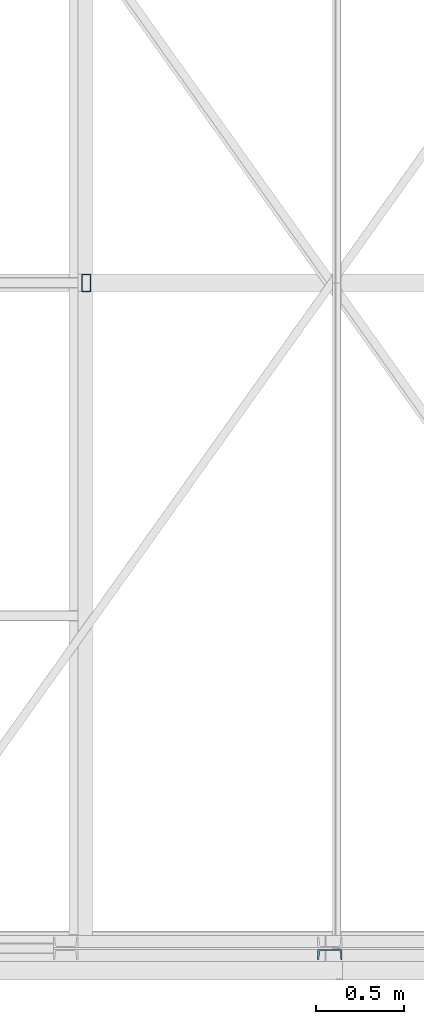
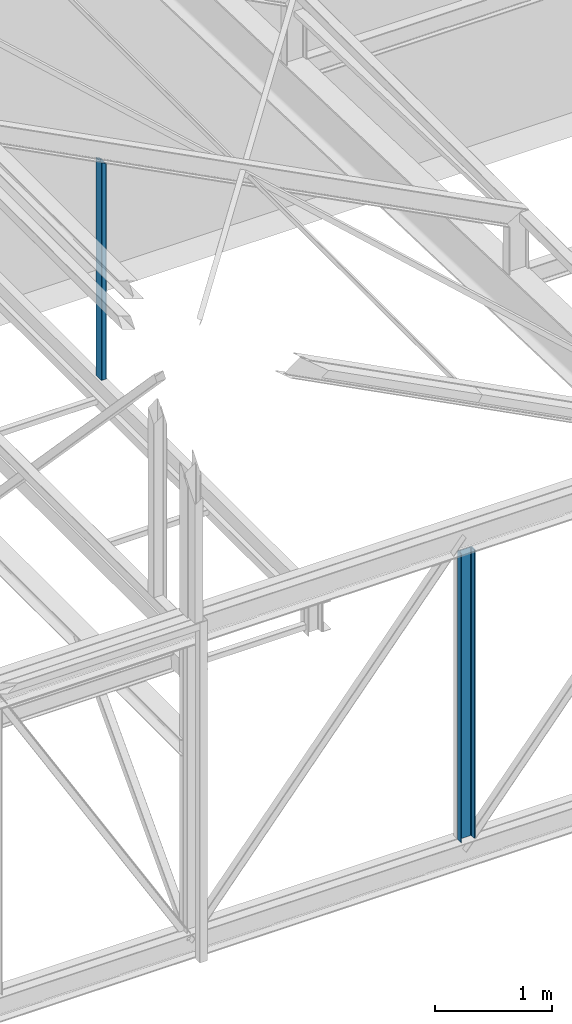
# One storey, part 7 of 123: 2 columns, 2 elements without a shape of their own.
"""IFC2X3 building model written with IfcOpenShell, lengths in millimetres."""

from ifc_helpers import new_model, si_unit, frame, origin_with_axes, origin_2d_with_axis, place, context, subcontext, project, spatial, hollow_rectangle, u_section, extrude, clip, halfspace, material, type_object, element, aggregate, save


model = new_model("IFC2X3")

# Units and contexts
model_context = context("Model", 3, precision=1e-05, world=origin_with_axes())
body_context = subcontext(model_context, "Body", "Model", "MODEL_VIEW")
ifc_project = project(units=[si_unit("LENGTHUNIT", "METRE", prefix="MILLI"), si_unit("AREAUNIT", "SQUARE_METRE"), si_unit("VOLUMEUNIT", "CUBIC_METRE"), si_unit("MASSUNIT", "GRAM", prefix="KILO"), si_unit("TIMEUNIT", "SECOND"), si_unit("PLANEANGLEUNIT", "RADIAN"), si_unit("SOLIDANGLEUNIT", "STERADIAN"), si_unit("THERMODYNAMICTEMPERATUREUNIT", "DEGREE_CELSIUS"), si_unit("LUMINOUSINTENSITYUNIT", "LUMEN")], contexts=[model_context])

# Site, building, storey
site_placement = place(None, origin_with_axes())
site = spatial("IfcSite", under=ifc_project, at=site_placement, Name="Undefined", CompositionType="ELEMENT")
building_placement = place(site_placement, origin_with_axes())
building = spatial("IfcBuilding", under=site, at=building_placement, Name="Undefined", CompositionType="ELEMENT")
storey_placement = place(building_placement, origin_with_axes())
storey = spatial("IfcBuildingStorey", under=building, at=storey_placement, Name="Undefined", CompositionType="ELEMENT", Elevation=0.0)

# Assembly, column
assembly_1_placement = place(storey_placement, origin_with_axes())
assembly_1 = element("IfcElementAssembly", 1, at=assembly_1_placement, inside=storey, Name="Steel Assembly", AssemblyPlace="NOTDEFINED", PredefinedType="RIGID_FRAME")
ifc_material_1 = material(Name="STEEL/S275-E28")
column_type_1 = type_object("IfcColumnType", Name="UPN140", PredefinedType="NOTDEFINED")
column_1_placement = place(assembly_1_placement, frame((26175.0, -35.0, 5260.0), z_axis=(0.0, 0.0, 1.0), x_axis=(-1.0, 0.0, 0.0)))
column_1 = element("IfcColumn", 2, at=column_1_placement, type_object=column_type_1, material=ifc_material_1, Name="MONTANT", ObjectType="UPN140", context=body_context, shape_type="SweptSolid", body=[
    extrude(u_section(Depth=140.0, FlangeWidth=60.0, WebThickness=7.0, FlangeThickness=10.0, FilletRadius=10.0, EdgeRadius=5.0, FlangeSlope=0.0798299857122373, at=origin_2d_with_axis()), frame((0.0, 0.0, 3009.99444626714), z_axis=(0.0, 0.0, -1.0), x_axis=(0.0, 1.0, 0.0)), (0.0, 0.0, 1.0), 3010.0),
])
aggregate(assembly_1, [column_1])

assembly_2_placement = place(storey_placement, origin_with_axes())
assembly_2 = element("IfcElementAssembly", 3, at=assembly_2_placement, inside=storey, Name="Steel Assembly", AssemblyPlace="NOTDEFINED", PredefinedType="RIGID_FRAME")
ifc_material_2 = material(Name="STEEL/S235-E24")
column_type_2 = type_object("IfcColumnType", Name="TUBE-R-100*50*3", PredefinedType="NOTDEFINED")
column_2_placement = place(assembly_2_placement, frame((24783.9916006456, 3800.0, 8240.0), z_axis=(0.0, 0.0, 1.0), x_axis=(0.0, -1.0, 0.0)))
column_2 = element("IfcColumn", 4, at=column_2_placement, type_object=column_type_2, material=ifc_material_2, Name="SUSPENTE", ObjectType="TUBE-R-100*50*3", context=body_context, shape_type="Clipping", body=[
    clip(extrude(hollow_rectangle(XDim=50.0, YDim=100.0, WallThickness=3.0, InnerFilletRadius=3.0, OuterFilletRadius=6.0, at=origin_2d_with_axis()), frame((0.0, 0.0, 2272.19184626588), z_axis=(0.0, 0.0, -1.0), x_axis=(0.0, 1.0, 0.0)), (0.0, 0.0, 1.0), 2272.2), halfspace(frame((0.0, -46.0305694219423, 2282.96030677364), z_axis=(0.0, -0.460093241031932, -0.887870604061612), x_axis=(1.0, 0.0, 0.0)), True)),
])
aggregate(assembly_2, [column_2])

save(model, "model.ifc")
